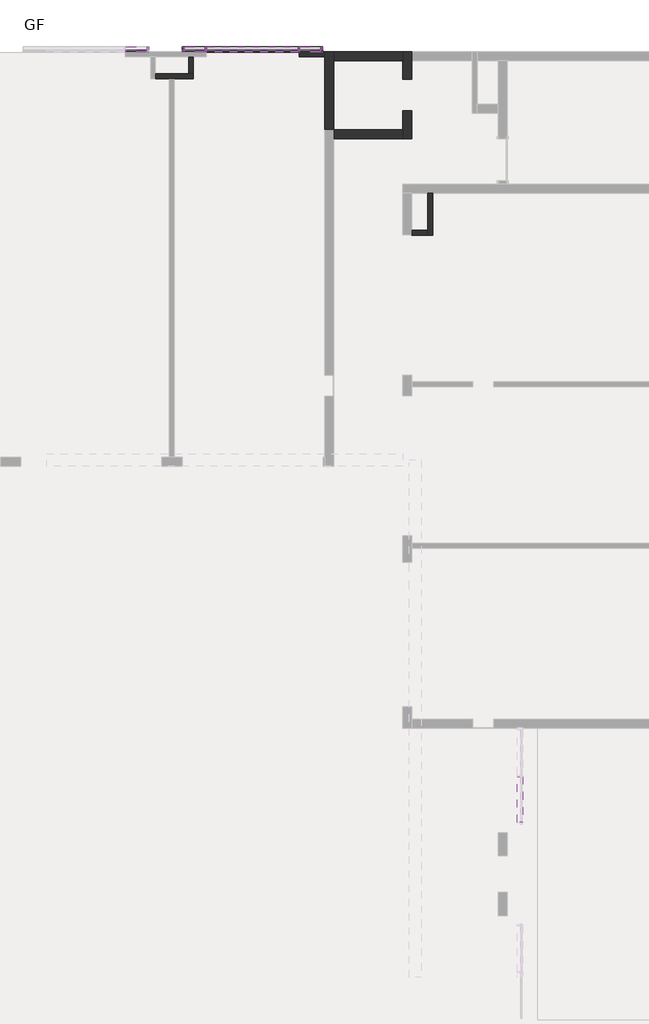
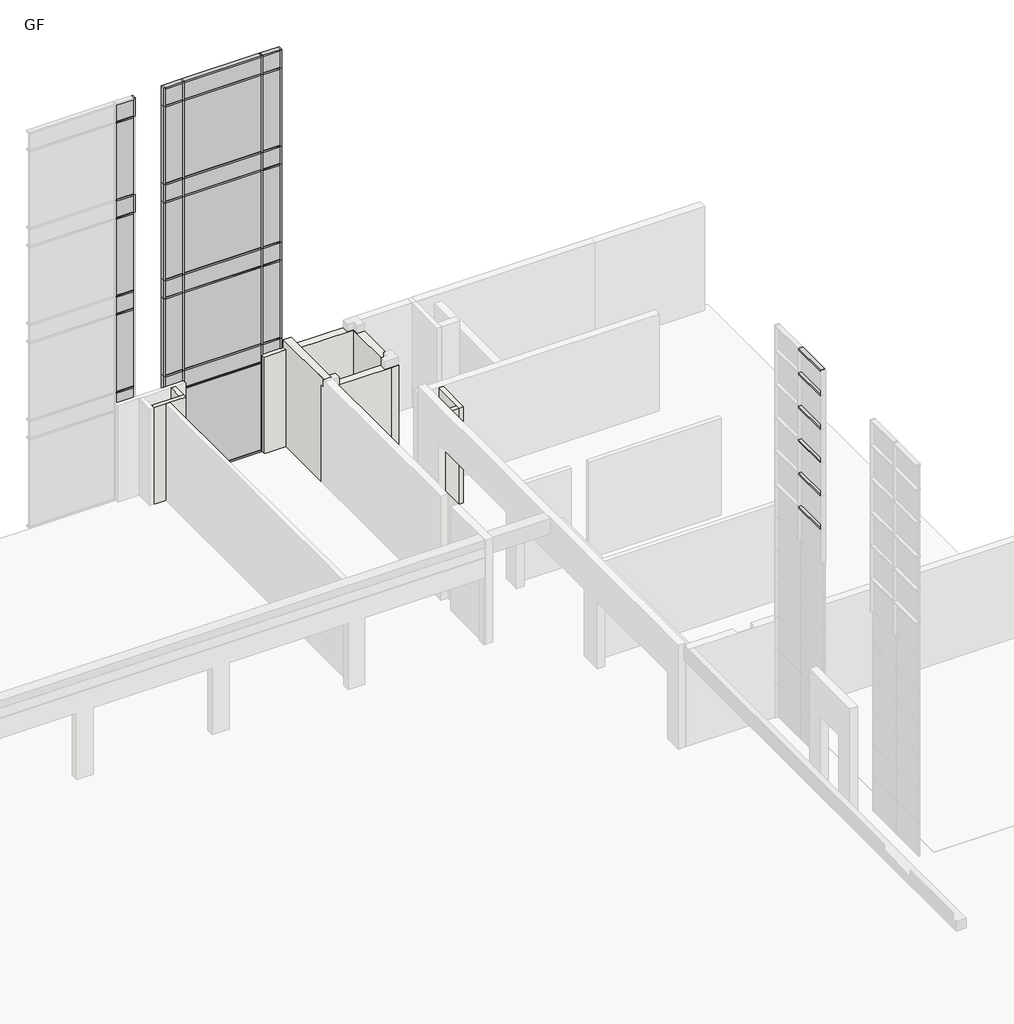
# One storey, part 22 of 23: 74 members, 32 plates, 9 walls.
"""IFC4 building model written with IfcOpenShell, lengths in millimetres."""

from ifc_helpers import new_model, si_unit, frame, origin, place, context, project, spatial, polyline, outline, extrude, faceted_brep, transform, mapped, element, save
from components import rectangular_mullion_50_x_150mm_64d38db8, rectangular_mullion_50_x_150mm_68b3818a, rectangular_mullion_50_x_150mm_350c86c2, rectangular_mullion_50_x_150mm_f245f1eb, rectangular_mullion_50_x_150mm_5fdcfccd, rectangular_mullion_50_x_150mm_d11e3bb4, rectangular_mullion_50_x_150mm_7d543e93, rectangular_mullion_50_x_150mm_9e0f1e24, rectangular_mullion_50_x_150mm_a95743fc, rectangular_mullion_50_x_150mm_dbb82e9e, rectangular_mullion_50_x_150mm_32aaa733, rectangular_mullion_50_x_150mm_9b8962c0, rectangular_mullion_50_x_150mm_f822ab76, rectangular_mullion_50_x_150mm_c30a9d19, system_panel_glazed_f9f902e6, system_panel_glazed_bf1ddb54, system_panel_glazed_6ff5b55b, system_panel_glazed_2a2db0e8, system_panel_glazed_93ed122c, system_panel_glazed_c1421171

model = new_model("IFC4")

# Units and contexts
model_context = context("Model", 3, world=origin())
ifc_project = project(units=[si_unit("LENGTHUNIT", "METRE", prefix="MILLI")], contexts=[model_context])

# Site, building, storey
site = spatial("IfcSite", under=ifc_project)
building = spatial("IfcBuilding", under=site)
storey = spatial("IfcBuildingStorey", under=building, Name="GF", Elevation=900.0)

# Members
placement = place(None, origin())
rectangular_mullion_50_x_150mm_shape = rectangular_mullion_50_x_150mm_64d38db8(model_context)
element("IfcMember", 1, ObjectType="Rectangular Mullion : 50 x 150mm", at=placement, inside=storey, context=model_context, shape_type="MappedRepresentation", body=[
    mapped(rectangular_mullion_50_x_150mm_shape, transform((28437.4134101, 21322.3851347, 15125.0), x_axis=(0.0, 0.0, 1.0), y_axis=(0.0, -1.0, 0.0), z_axis=(1.0, 0.0, 0.0))),
])
element("IfcMember", 2, ObjectType="Rectangular Mullion : 50 x 150mm", at=placement, inside=storey, context=model_context, shape_type="MappedRepresentation", body=[
    mapped(rectangular_mullion_50_x_150mm_shape, transform((25122.4134101, 21322.3851347, 15125.0), x_axis=(0.0, 0.0, 1.0), y_axis=(0.0, -1.0, 0.0), z_axis=(1.0, 0.0, 0.0))),
])
element("IfcMember", 3, ObjectType="Rectangular Mullion : 50 x 150mm", at=placement, inside=storey, context=model_context, shape_type="MappedRepresentation", body=[
    mapped(rectangular_mullion_50_x_150mm_shape, transform((24522.4134101, 21322.3851347, 900.0), x_axis=(0.0, 0.0, -1.0), y_axis=(0.0, -1.0, 0.0), z_axis=(-1.0, 0.0, 0.0))),
])
element("IfcMember", 4, ObjectType="Rectangular Mullion : 50 x 150mm", at=placement, inside=storey, context=model_context, shape_type="MappedRepresentation", body=[
    mapped(rectangular_mullion_50_x_150mm_shape, transform((27837.4134101, 21322.3851347, 900.0), x_axis=(0.0, 0.0, -1.0), y_axis=(0.0, -1.0, 0.0), z_axis=(-1.0, 0.0, 0.0))),
])
rectangular_mullion_50_x_150mm_2_shape = rectangular_mullion_50_x_150mm_68b3818a(model_context)
element("IfcMember", 5, ObjectType="Rectangular Mullion : 50 x 150mm", at=placement, inside=storey, context=model_context, shape_type="MappedRepresentation", body=[
    mapped(rectangular_mullion_50_x_150mm_2_shape, transform((25122.4134101, 21322.3851347, 4750.0), x_axis=(0.0, 0.0, 1.0), y_axis=(0.0, -1.0, 0.0), z_axis=(1.0, 0.0, 0.0))),
])
element("IfcMember", 6, ObjectType="Rectangular Mullion : 50 x 150mm", at=placement, inside=storey, context=model_context, shape_type="MappedRepresentation", body=[
    mapped(rectangular_mullion_50_x_150mm_2_shape, transform((28437.4134101, 21322.3851347, 4750.0), x_axis=(0.0, 0.0, 1.0), y_axis=(0.0, -1.0, 0.0), z_axis=(1.0, 0.0, 0.0))),
])
element("IfcMember", 7, ObjectType="Rectangular Mullion : 50 x 150mm", at=placement, inside=storey, context=model_context, shape_type="MappedRepresentation", body=[
    mapped(rectangular_mullion_50_x_150mm_2_shape, transform((25122.4134101, 21322.3851347, 4100.0), x_axis=(0.0, 0.0, 1.0), y_axis=(0.0, -1.0, 0.0), z_axis=(1.0, 0.0, 0.0))),
])
element("IfcMember", 8, ObjectType="Rectangular Mullion : 50 x 150mm", at=placement, inside=storey, context=model_context, shape_type="MappedRepresentation", body=[
    mapped(rectangular_mullion_50_x_150mm_2_shape, transform((28437.4134101, 21322.3851347, 4100.0), x_axis=(0.0, 0.0, 1.0), y_axis=(0.0, -1.0, 0.0), z_axis=(1.0, 0.0, 0.0))),
])
element("IfcMember", 9, ObjectType="Rectangular Mullion : 50 x 150mm", at=placement, inside=storey, context=model_context, shape_type="MappedRepresentation", body=[
    mapped(rectangular_mullion_50_x_150mm_2_shape, transform((25122.4134101, 21322.3851347, 8200.0), x_axis=(0.0, 0.0, 1.0), y_axis=(0.0, -1.0, 0.0), z_axis=(1.0, 0.0, 0.0))),
])
element("IfcMember", 10, ObjectType="Rectangular Mullion : 50 x 150mm", at=placement, inside=storey, context=model_context, shape_type="MappedRepresentation", body=[
    mapped(rectangular_mullion_50_x_150mm_2_shape, transform((28437.4134101, 21322.3851347, 8200.0), x_axis=(0.0, 0.0, 1.0), y_axis=(0.0, -1.0, 0.0), z_axis=(1.0, 0.0, 0.0))),
])
element("IfcMember", 11, ObjectType="Rectangular Mullion : 50 x 150mm", at=placement, inside=storey, context=model_context, shape_type="MappedRepresentation", body=[
    mapped(rectangular_mullion_50_x_150mm_2_shape, transform((25122.4134101, 21322.3851347, 11650.0), x_axis=(0.0, 0.0, 1.0), y_axis=(0.0, -1.0, 0.0), z_axis=(1.0, 0.0, 0.0))),
])
element("IfcMember", 12, ObjectType="Rectangular Mullion : 50 x 150mm", at=placement, inside=storey, context=model_context, shape_type="MappedRepresentation", body=[
    mapped(rectangular_mullion_50_x_150mm_2_shape, transform((28437.4134101, 21322.3851347, 11650.0), x_axis=(0.0, 0.0, 1.0), y_axis=(0.0, -1.0, 0.0), z_axis=(1.0, 0.0, 0.0))),
])
element("IfcMember", 13, ObjectType="Rectangular Mullion : 50 x 150mm", at=placement, inside=storey, context=model_context, shape_type="MappedRepresentation", body=[
    mapped(rectangular_mullion_50_x_150mm_2_shape, transform((25122.4134101, 21322.3851347, 7550.0), x_axis=(0.0, 0.0, 1.0), y_axis=(0.0, -1.0, 0.0), z_axis=(1.0, 0.0, 0.0))),
])
element("IfcMember", 14, ObjectType="Rectangular Mullion : 50 x 150mm", at=placement, inside=storey, context=model_context, shape_type="MappedRepresentation", body=[
    mapped(rectangular_mullion_50_x_150mm_2_shape, transform((28437.4134101, 21322.3851347, 7550.0), x_axis=(0.0, 0.0, 1.0), y_axis=(0.0, -1.0, 0.0), z_axis=(1.0, 0.0, 0.0))),
])
element("IfcMember", 15, ObjectType="Rectangular Mullion : 50 x 150mm", at=placement, inside=storey, context=model_context, shape_type="MappedRepresentation", body=[
    mapped(rectangular_mullion_50_x_150mm_2_shape, transform((25122.4134101, 21322.3851347, 11000.0), x_axis=(0.0, 0.0, 1.0), y_axis=(0.0, -1.0, 0.0), z_axis=(1.0, 0.0, 0.0))),
])
element("IfcMember", 16, ObjectType="Rectangular Mullion : 50 x 150mm", at=placement, inside=storey, context=model_context, shape_type="MappedRepresentation", body=[
    mapped(rectangular_mullion_50_x_150mm_2_shape, transform((28437.4134101, 21322.3851347, 11000.0), x_axis=(0.0, 0.0, 1.0), y_axis=(0.0, -1.0, 0.0), z_axis=(1.0, 0.0, 0.0))),
])
element("IfcMember", 17, ObjectType="Rectangular Mullion : 50 x 150mm", at=placement, inside=storey, context=model_context, shape_type="MappedRepresentation", body=[
    mapped(rectangular_mullion_50_x_150mm_2_shape, transform((25122.4134101, 21322.3851347, 14450.0), x_axis=(0.0, 0.0, 1.0), y_axis=(0.0, -1.0, 0.0), z_axis=(1.0, 0.0, 0.0))),
])
element("IfcMember", 18, ObjectType="Rectangular Mullion : 50 x 150mm", at=placement, inside=storey, context=model_context, shape_type="MappedRepresentation", body=[
    mapped(rectangular_mullion_50_x_150mm_2_shape, transform((28437.4134101, 21322.3851347, 14450.0), x_axis=(0.0, 0.0, 1.0), y_axis=(0.0, -1.0, 0.0), z_axis=(1.0, 0.0, 0.0))),
])
element("IfcMember", 19, ObjectType="Rectangular Mullion : 50 x 150mm", at=placement, inside=storey, context=model_context, shape_type="MappedRepresentation", body=[
    mapped(rectangular_mullion_50_x_150mm_2_shape, transform((23452.4134101, 21322.3851347, 4100.0), x_axis=(0.0, 0.0, 1.0), y_axis=(0.0, -1.0, 0.0), z_axis=(1.0, 0.0, 0.0))),
])
element("IfcMember", 20, ObjectType="Rectangular Mullion : 50 x 150mm", at=placement, inside=storey, context=model_context, shape_type="MappedRepresentation", body=[
    mapped(rectangular_mullion_50_x_150mm_2_shape, transform((23452.4134101, 21322.3851347, 4750.0), x_axis=(0.0, 0.0, 1.0), y_axis=(0.0, -1.0, 0.0), z_axis=(1.0, 0.0, 0.0))),
])
element("IfcMember", 21, ObjectType="Rectangular Mullion : 50 x 150mm", at=placement, inside=storey, context=model_context, shape_type="MappedRepresentation", body=[
    mapped(rectangular_mullion_50_x_150mm_2_shape, transform((23452.4134101, 21322.3851347, 7550.0), x_axis=(0.0, 0.0, 1.0), y_axis=(0.0, -1.0, 0.0), z_axis=(1.0, 0.0, 0.0))),
])
element("IfcMember", 22, ObjectType="Rectangular Mullion : 50 x 150mm", at=placement, inside=storey, context=model_context, shape_type="MappedRepresentation", body=[
    mapped(rectangular_mullion_50_x_150mm_2_shape, transform((23452.4134101, 21322.3851347, 8200.0), x_axis=(0.0, 0.0, 1.0), y_axis=(0.0, -1.0, 0.0), z_axis=(1.0, 0.0, 0.0))),
])
element("IfcMember", 23, ObjectType="Rectangular Mullion : 50 x 150mm", at=placement, inside=storey, context=model_context, shape_type="MappedRepresentation", body=[
    mapped(rectangular_mullion_50_x_150mm_2_shape, transform((23452.4134101, 21322.3851347, 11000.0), x_axis=(0.0, 0.0, 1.0), y_axis=(0.0, -1.0, 0.0), z_axis=(1.0, 0.0, 0.0))),
])
element("IfcMember", 24, ObjectType="Rectangular Mullion : 50 x 150mm", at=placement, inside=storey, context=model_context, shape_type="MappedRepresentation", body=[
    mapped(rectangular_mullion_50_x_150mm_2_shape, transform((23452.4134101, 21322.3851347, 11650.0), x_axis=(0.0, 0.0, 1.0), y_axis=(0.0, -1.0, 0.0), z_axis=(1.0, 0.0, 0.0))),
])
element("IfcMember", 25, ObjectType="Rectangular Mullion : 50 x 150mm", at=placement, inside=storey, context=model_context, shape_type="MappedRepresentation", body=[
    mapped(rectangular_mullion_50_x_150mm_2_shape, transform((23452.4134101, 21322.3851347, 14450.0), x_axis=(0.0, 0.0, 1.0), y_axis=(0.0, -1.0, 0.0), z_axis=(1.0, 0.0, 0.0))),
])
rectangular_mullion_50_x_150mm_3_shape = rectangular_mullion_50_x_150mm_350c86c2(model_context)
element("IfcMember", 26, ObjectType="Rectangular Mullion : 50 x 150mm", at=placement, inside=storey, context=model_context, shape_type="MappedRepresentation", body=[
    mapped(rectangular_mullion_50_x_150mm_3_shape, transform((25172.4134101, 21322.3851347, 900.0), x_axis=(0.0, 0.0, -1.0), y_axis=(0.0, -1.0, 0.0), z_axis=(-1.0, 0.0, 0.0))),
])
rectangular_mullion_50_x_150mm_4_shape = rectangular_mullion_50_x_150mm_f245f1eb(model_context)
element("IfcMember", 27, ObjectType="Rectangular Mullion : 50 x 150mm", at=placement, inside=storey, context=model_context, shape_type="MappedRepresentation", body=[
    mapped(rectangular_mullion_50_x_150mm_4_shape, transform((25147.4134101, 21322.3851347, 900.0), x_axis=(1.0, 0.0, 0.0), y_axis=(0.0, -1.0, 0.0), z_axis=(0.0, 0.0, -1.0))),
])
element("IfcMember", 28, ObjectType="Rectangular Mullion : 50 x 150mm", at=placement, inside=storey, context=model_context, shape_type="MappedRepresentation", body=[
    mapped(rectangular_mullion_50_x_150mm_4_shape, transform((27812.4134101, 21322.3851347, 900.0), x_axis=(1.0, 0.0, 0.0), y_axis=(0.0, -1.0, 0.0), z_axis=(0.0, 0.0, -1.0))),
])
element("IfcMember", 29, ObjectType="Rectangular Mullion : 50 x 150mm", at=placement, inside=storey, context=model_context, shape_type="MappedRepresentation", body=[
    mapped(rectangular_mullion_50_x_150mm_3_shape, transform((27787.4134101, 21322.3851347, 15125.0), x_axis=(0.0, 0.0, 1.0), y_axis=(0.0, -1.0, 0.0), z_axis=(1.0, 0.0, 0.0))),
])
rectangular_mullion_50_x_150mm_5_shape = rectangular_mullion_50_x_150mm_5fdcfccd(model_context)
element("IfcMember", 30, ObjectType="Rectangular Mullion : 50 x 150mm", at=placement, inside=storey, context=model_context, shape_type="MappedRepresentation", body=[
    mapped(rectangular_mullion_50_x_150mm_5_shape, transform((27787.4134101, 21322.3851347, 4750.0), x_axis=(0.0, 0.0, 1.0), y_axis=(0.0, -1.0, 0.0), z_axis=(1.0, 0.0, 0.0))),
])
element("IfcMember", 31, ObjectType="Rectangular Mullion : 50 x 150mm", at=placement, inside=storey, context=model_context, shape_type="MappedRepresentation", body=[
    mapped(rectangular_mullion_50_x_150mm_5_shape, transform((27787.4134101, 21322.3851347, 4100.0), x_axis=(0.0, 0.0, 1.0), y_axis=(0.0, -1.0, 0.0), z_axis=(1.0, 0.0, 0.0))),
])
element("IfcMember", 32, ObjectType="Rectangular Mullion : 50 x 150mm", at=placement, inside=storey, context=model_context, shape_type="MappedRepresentation", body=[
    mapped(rectangular_mullion_50_x_150mm_5_shape, transform((27787.4134101, 21322.3851347, 8200.0), x_axis=(0.0, 0.0, 1.0), y_axis=(0.0, -1.0, 0.0), z_axis=(1.0, 0.0, 0.0))),
])
element("IfcMember", 33, ObjectType="Rectangular Mullion : 50 x 150mm", at=placement, inside=storey, context=model_context, shape_type="MappedRepresentation", body=[
    mapped(rectangular_mullion_50_x_150mm_5_shape, transform((27787.4134101, 21322.3851347, 11650.0), x_axis=(0.0, 0.0, 1.0), y_axis=(0.0, -1.0, 0.0), z_axis=(1.0, 0.0, 0.0))),
])
element("IfcMember", 34, ObjectType="Rectangular Mullion : 50 x 150mm", at=placement, inside=storey, context=model_context, shape_type="MappedRepresentation", body=[
    mapped(rectangular_mullion_50_x_150mm_5_shape, transform((27787.4134101, 21322.3851347, 7550.0), x_axis=(0.0, 0.0, 1.0), y_axis=(0.0, -1.0, 0.0), z_axis=(1.0, 0.0, 0.0))),
])
element("IfcMember", 35, ObjectType="Rectangular Mullion : 50 x 150mm", at=placement, inside=storey, context=model_context, shape_type="MappedRepresentation", body=[
    mapped(rectangular_mullion_50_x_150mm_5_shape, transform((27787.4134101, 21322.3851347, 11000.0), x_axis=(0.0, 0.0, 1.0), y_axis=(0.0, -1.0, 0.0), z_axis=(1.0, 0.0, 0.0))),
])
element("IfcMember", 36, ObjectType="Rectangular Mullion : 50 x 150mm", at=placement, inside=storey, context=model_context, shape_type="MappedRepresentation", body=[
    mapped(rectangular_mullion_50_x_150mm_5_shape, transform((27787.4134101, 21322.3851347, 14450.0), x_axis=(0.0, 0.0, 1.0), y_axis=(0.0, -1.0, 0.0), z_axis=(1.0, 0.0, 0.0))),
])
rectangular_mullion_50_x_150mm_6_shape = rectangular_mullion_50_x_150mm_d11e3bb4(model_context)
element("IfcMember", 37, ObjectType="Rectangular Mullion : 50 x 150mm", at=placement, inside=storey, context=model_context, shape_type="MappedRepresentation", body=[
    mapped(rectangular_mullion_50_x_150mm_6_shape, transform((25147.4134101, 21322.3851347, 4750.0), x_axis=(1.0, 0.0, 0.0), y_axis=(0.0, -1.0, 0.0), z_axis=(0.0, 0.0, -1.0))),
])
element("IfcMember", 38, ObjectType="Rectangular Mullion : 50 x 150mm", at=placement, inside=storey, context=model_context, shape_type="MappedRepresentation", body=[
    mapped(rectangular_mullion_50_x_150mm_6_shape, transform((27812.4134101, 21322.3851347, 4750.0), x_axis=(1.0, 0.0, 0.0), y_axis=(0.0, -1.0, 0.0), z_axis=(0.0, 0.0, -1.0))),
])
element("IfcMember", 39, ObjectType="Rectangular Mullion : 50 x 150mm", at=placement, inside=storey, context=model_context, shape_type="MappedRepresentation", body=[
    mapped(rectangular_mullion_50_x_150mm_6_shape, transform((25147.4134101, 21322.3851347, 8200.0), x_axis=(1.0, 0.0, 0.0), y_axis=(0.0, -1.0, 0.0), z_axis=(0.0, 0.0, -1.0))),
])
element("IfcMember", 40, ObjectType="Rectangular Mullion : 50 x 150mm", at=placement, inside=storey, context=model_context, shape_type="MappedRepresentation", body=[
    mapped(rectangular_mullion_50_x_150mm_6_shape, transform((27812.4134101, 21322.3851347, 8200.0), x_axis=(1.0, 0.0, 0.0), y_axis=(0.0, -1.0, 0.0), z_axis=(0.0, 0.0, -1.0))),
])
element("IfcMember", 41, ObjectType="Rectangular Mullion : 50 x 150mm", at=placement, inside=storey, context=model_context, shape_type="MappedRepresentation", body=[
    mapped(rectangular_mullion_50_x_150mm_6_shape, transform((25147.4134101, 21322.3851347, 11650.0), x_axis=(1.0, 0.0, 0.0), y_axis=(0.0, -1.0, 0.0), z_axis=(0.0, 0.0, -1.0))),
])
element("IfcMember", 42, ObjectType="Rectangular Mullion : 50 x 150mm", at=placement, inside=storey, context=model_context, shape_type="MappedRepresentation", body=[
    mapped(rectangular_mullion_50_x_150mm_6_shape, transform((27812.4134101, 21322.3851347, 11650.0), x_axis=(1.0, 0.0, 0.0), y_axis=(0.0, -1.0, 0.0), z_axis=(0.0, 0.0, -1.0))),
])
rectangular_mullion_50_x_150mm_7_shape = rectangular_mullion_50_x_150mm_7d543e93(model_context)
element("IfcMember", 43, ObjectType="Rectangular Mullion : 50 x 150mm", at=placement, inside=storey, context=model_context, shape_type="MappedRepresentation", body=[
    mapped(rectangular_mullion_50_x_150mm_7_shape, transform((25147.4134101, 21322.3851347, 4100.0), x_axis=(1.0, 0.0, 0.0), y_axis=(0.0, -1.0, 0.0), z_axis=(0.0, 0.0, -1.0))),
])
element("IfcMember", 44, ObjectType="Rectangular Mullion : 50 x 150mm", at=placement, inside=storey, context=model_context, shape_type="MappedRepresentation", body=[
    mapped(rectangular_mullion_50_x_150mm_7_shape, transform((27812.4134101, 21322.3851347, 4100.0), x_axis=(1.0, 0.0, 0.0), y_axis=(0.0, -1.0, 0.0), z_axis=(0.0, 0.0, -1.0))),
])
element("IfcMember", 45, ObjectType="Rectangular Mullion : 50 x 150mm", at=placement, inside=storey, context=model_context, shape_type="MappedRepresentation", body=[
    mapped(rectangular_mullion_50_x_150mm_7_shape, transform((25147.4134101, 21322.3851347, 7550.0), x_axis=(1.0, 0.0, 0.0), y_axis=(0.0, -1.0, 0.0), z_axis=(0.0, 0.0, -1.0))),
])
element("IfcMember", 46, ObjectType="Rectangular Mullion : 50 x 150mm", at=placement, inside=storey, context=model_context, shape_type="MappedRepresentation", body=[
    mapped(rectangular_mullion_50_x_150mm_7_shape, transform((27812.4134101, 21322.3851347, 7550.0), x_axis=(1.0, 0.0, 0.0), y_axis=(0.0, -1.0, 0.0), z_axis=(0.0, 0.0, -1.0))),
])
element("IfcMember", 47, ObjectType="Rectangular Mullion : 50 x 150mm", at=placement, inside=storey, context=model_context, shape_type="MappedRepresentation", body=[
    mapped(rectangular_mullion_50_x_150mm_7_shape, transform((25147.4134101, 21322.3851347, 11000.0), x_axis=(1.0, 0.0, 0.0), y_axis=(0.0, -1.0, 0.0), z_axis=(0.0, 0.0, -1.0))),
])
element("IfcMember", 48, ObjectType="Rectangular Mullion : 50 x 150mm", at=placement, inside=storey, context=model_context, shape_type="MappedRepresentation", body=[
    mapped(rectangular_mullion_50_x_150mm_7_shape, transform((27812.4134101, 21322.3851347, 11000.0), x_axis=(1.0, 0.0, 0.0), y_axis=(0.0, -1.0, 0.0), z_axis=(0.0, 0.0, -1.0))),
])
rectangular_mullion_50_x_150mm_8_shape = rectangular_mullion_50_x_150mm_9e0f1e24(model_context)
element("IfcMember", 49, ObjectType="Rectangular Mullion : 50 x 150mm", at=placement, inside=storey, context=model_context, shape_type="MappedRepresentation", body=[
    mapped(rectangular_mullion_50_x_150mm_8_shape, transform((25147.4134101, 21322.3851347, 14450.0), x_axis=(1.0, 0.0, 0.0), y_axis=(0.0, -1.0, 0.0), z_axis=(0.0, 0.0, -1.0))),
])
element("IfcMember", 50, ObjectType="Rectangular Mullion : 50 x 150mm", at=placement, inside=storey, context=model_context, shape_type="MappedRepresentation", body=[
    mapped(rectangular_mullion_50_x_150mm_8_shape, transform((27812.4134101, 21322.3851347, 14450.0), x_axis=(1.0, 0.0, 0.0), y_axis=(0.0, -1.0, 0.0), z_axis=(0.0, 0.0, -1.0))),
])
rectangular_mullion_50_x_150mm_9_shape = rectangular_mullion_50_x_150mm_a95743fc(model_context)
element("IfcMember", 51, ObjectType="Rectangular Mullion : 50 x 150mm", at=placement, inside=storey, context=model_context, shape_type="MappedRepresentation", body=[
    mapped(rectangular_mullion_50_x_150mm_9_shape, transform((28487.4134101, 21322.3851347, 900.0), x_axis=(1.0, 0.0, 0.0), y_axis=(0.0, -1.0, 0.0), z_axis=(0.0, 0.0, -1.0))),
])
rectangular_mullion_50_x_150mm_10_shape = rectangular_mullion_50_x_150mm_dbb82e9e(model_context)
element("IfcMember", 52, ObjectType="Rectangular Mullion : 50 x 150mm", at=placement, inside=storey, context=model_context, shape_type="MappedRepresentation", body=[
    mapped(rectangular_mullion_50_x_150mm_10_shape, transform((24472.4134101, 21322.3851347, 15125.0), x_axis=(-1.0, 0.0, 0.0), y_axis=(0.0, -1.0, 0.0), z_axis=(0.0, 0.0, 1.0))),
])
rectangular_mullion_50_x_150mm_11_shape = rectangular_mullion_50_x_150mm_32aaa733(model_context)
element("IfcMember", 53, ObjectType="Rectangular Mullion : 50 x 150mm", at=placement, inside=storey, context=model_context, shape_type="MappedRepresentation", body=[
    mapped(rectangular_mullion_50_x_150mm_11_shape, transform((28487.4134101, 21322.3851347, 4750.0), x_axis=(1.0, 0.0, 0.0), y_axis=(0.0, -1.0, 0.0), z_axis=(0.0, 0.0, -1.0))),
])
element("IfcMember", 54, ObjectType="Rectangular Mullion : 50 x 150mm", at=placement, inside=storey, context=model_context, shape_type="MappedRepresentation", body=[
    mapped(rectangular_mullion_50_x_150mm_11_shape, transform((28487.4134101, 21322.3851347, 8200.0), x_axis=(1.0, 0.0, 0.0), y_axis=(0.0, -1.0, 0.0), z_axis=(0.0, 0.0, -1.0))),
])
element("IfcMember", 55, ObjectType="Rectangular Mullion : 50 x 150mm", at=placement, inside=storey, context=model_context, shape_type="MappedRepresentation", body=[
    mapped(rectangular_mullion_50_x_150mm_11_shape, transform((28487.4134101, 21322.3851347, 11650.0), x_axis=(1.0, 0.0, 0.0), y_axis=(0.0, -1.0, 0.0), z_axis=(0.0, 0.0, -1.0))),
])
rectangular_mullion_50_x_150mm_12_shape = rectangular_mullion_50_x_150mm_9b8962c0(model_context)
element("IfcMember", 56, ObjectType="Rectangular Mullion : 50 x 150mm", at=placement, inside=storey, context=model_context, shape_type="MappedRepresentation", body=[
    mapped(rectangular_mullion_50_x_150mm_12_shape, transform((24472.4134101, 21322.3851347, 4750.0), x_axis=(-1.0, 0.0, 0.0), y_axis=(0.0, -1.0, 0.0), z_axis=(0.0, 0.0, 1.0))),
])
element("IfcMember", 57, ObjectType="Rectangular Mullion : 50 x 150mm", at=placement, inside=storey, context=model_context, shape_type="MappedRepresentation", body=[
    mapped(rectangular_mullion_50_x_150mm_12_shape, transform((24472.4134101, 21322.3851347, 8200.0), x_axis=(-1.0, 0.0, 0.0), y_axis=(0.0, -1.0, 0.0), z_axis=(0.0, 0.0, 1.0))),
])
element("IfcMember", 58, ObjectType="Rectangular Mullion : 50 x 150mm", at=placement, inside=storey, context=model_context, shape_type="MappedRepresentation", body=[
    mapped(rectangular_mullion_50_x_150mm_12_shape, transform((24472.4134101, 21322.3851347, 11650.0), x_axis=(-1.0, 0.0, 0.0), y_axis=(0.0, -1.0, 0.0), z_axis=(0.0, 0.0, 1.0))),
])
element("IfcMember", 59, ObjectType="Rectangular Mullion : 50 x 150mm", at=placement, inside=storey, context=model_context, shape_type="MappedRepresentation", body=[
    mapped(rectangular_mullion_50_x_150mm_12_shape, transform((28487.4134101, 21322.3851347, 4100.0), x_axis=(1.0, 0.0, 0.0), y_axis=(0.0, -1.0, 0.0), z_axis=(0.0, 0.0, -1.0))),
])
element("IfcMember", 60, ObjectType="Rectangular Mullion : 50 x 150mm", at=placement, inside=storey, context=model_context, shape_type="MappedRepresentation", body=[
    mapped(rectangular_mullion_50_x_150mm_12_shape, transform((28487.4134101, 21322.3851347, 7550.0), x_axis=(1.0, 0.0, 0.0), y_axis=(0.0, -1.0, 0.0), z_axis=(0.0, 0.0, -1.0))),
])
element("IfcMember", 61, ObjectType="Rectangular Mullion : 50 x 150mm", at=placement, inside=storey, context=model_context, shape_type="MappedRepresentation", body=[
    mapped(rectangular_mullion_50_x_150mm_12_shape, transform((28487.4134101, 21322.3851347, 11000.0), x_axis=(1.0, 0.0, 0.0), y_axis=(0.0, -1.0, 0.0), z_axis=(0.0, 0.0, -1.0))),
])
element("IfcMember", 62, ObjectType="Rectangular Mullion : 50 x 150mm", at=placement, inside=storey, context=model_context, shape_type="MappedRepresentation", body=[
    mapped(rectangular_mullion_50_x_150mm_12_shape, transform((23502.4134101, 21322.3851347, 11000.0), x_axis=(1.0, 0.0, 0.0), y_axis=(0.0, -1.0, 0.0), z_axis=(0.0, 0.0, -1.0))),
])
element("IfcMember", 63, ObjectType="Rectangular Mullion : 50 x 150mm", at=placement, inside=storey, context=model_context, shape_type="MappedRepresentation", body=[
    mapped(rectangular_mullion_50_x_150mm_9_shape, transform((24472.4134101, 21322.3851347, 4100.0), x_axis=(-1.0, 0.0, 0.0), y_axis=(0.0, -1.0, 0.0), z_axis=(0.0, 0.0, 1.0))),
])
element("IfcMember", 64, ObjectType="Rectangular Mullion : 50 x 150mm", at=placement, inside=storey, context=model_context, shape_type="MappedRepresentation", body=[
    mapped(rectangular_mullion_50_x_150mm_11_shape, transform((24472.4134101, 21322.3851347, 7550.0), x_axis=(-1.0, 0.0, 0.0), y_axis=(0.0, -1.0, 0.0), z_axis=(0.0, 0.0, 1.0))),
])
element("IfcMember", 65, ObjectType="Rectangular Mullion : 50 x 150mm", at=placement, inside=storey, context=model_context, shape_type="MappedRepresentation", body=[
    mapped(rectangular_mullion_50_x_150mm_11_shape, transform((24472.4134101, 21322.3851347, 11000.0), x_axis=(-1.0, 0.0, 0.0), y_axis=(0.0, -1.0, 0.0), z_axis=(0.0, 0.0, 1.0))),
])
element("IfcMember", 66, ObjectType="Rectangular Mullion : 50 x 150mm", at=placement, inside=storey, context=model_context, shape_type="MappedRepresentation", body=[
    mapped(rectangular_mullion_50_x_150mm_11_shape, transform((24472.4134101, 21322.3851347, 14450.0), x_axis=(-1.0, 0.0, 0.0), y_axis=(0.0, -1.0, 0.0), z_axis=(0.0, 0.0, 1.0))),
])
element("IfcMember", 67, ObjectType="Rectangular Mullion : 50 x 150mm", at=placement, inside=storey, context=model_context, shape_type="MappedRepresentation", body=[
    mapped(rectangular_mullion_50_x_150mm_10_shape, transform((28487.4134101, 21322.3851347, 14450.0), x_axis=(1.0, 0.0, 0.0), y_axis=(0.0, -1.0, 0.0), z_axis=(0.0, 0.0, -1.0))),
])
element("IfcMember", 68, ObjectType="Rectangular Mullion : 50 x 150mm", at=placement, inside=storey, context=model_context, shape_type="MappedRepresentation", body=[
    mapped(rectangular_mullion_50_x_150mm_10_shape, transform((23502.4134101, 21322.3851347, 14450.0), x_axis=(1.0, 0.0, 0.0), y_axis=(0.0, -1.0, 0.0), z_axis=(0.0, 0.0, -1.0))),
])
rectangular_mullion_50_x_150mm_13_shape = rectangular_mullion_50_x_150mm_f822ab76(model_context)
element("IfcMember", 69, ObjectType="Rectangular Mullion : 50 x 150mm", at=placement, inside=storey, context=model_context, shape_type="MappedRepresentation", body=[
    mapped(rectangular_mullion_50_x_150mm_13_shape, transform((34137.4134101, 496.3639251, 9300.0), x_axis=(0.0, 0.0, 1.0), y_axis=(1.0, 0.0, 0.0), z_axis=(0.0, 1.0, 0.0))),
])
element("IfcMember", 70, ObjectType="Rectangular Mullion : 50 x 150mm", at=placement, inside=storey, context=model_context, shape_type="MappedRepresentation", body=[
    mapped(rectangular_mullion_50_x_150mm_13_shape, transform((34137.4134101, 496.3639251, 10500.0), x_axis=(0.0, 0.0, 1.0), y_axis=(1.0, 0.0, 0.0), z_axis=(0.0, 1.0, 0.0))),
])
element("IfcMember", 71, ObjectType="Rectangular Mullion : 50 x 150mm", at=placement, inside=storey, context=model_context, shape_type="MappedRepresentation", body=[
    mapped(rectangular_mullion_50_x_150mm_13_shape, transform((34137.4134101, 496.3639251, 11700.0), x_axis=(0.0, 0.0, 1.0), y_axis=(1.0, 0.0, 0.0), z_axis=(0.0, 1.0, 0.0))),
])
element("IfcMember", 72, ObjectType="Rectangular Mullion : 50 x 150mm", at=placement, inside=storey, context=model_context, shape_type="MappedRepresentation", body=[
    mapped(rectangular_mullion_50_x_150mm_13_shape, transform((34137.4134101, 496.3639251, 12900.0), x_axis=(0.0, 0.0, 1.0), y_axis=(1.0, 0.0, 0.0), z_axis=(0.0, 1.0, 0.0))),
])
element("IfcMember", 73, ObjectType="Rectangular Mullion : 50 x 150mm", at=placement, inside=storey, context=model_context, shape_type="MappedRepresentation", body=[
    mapped(rectangular_mullion_50_x_150mm_13_shape, transform((34137.4134101, 496.3639251, 14100.0), x_axis=(0.0, 0.0, 1.0), y_axis=(1.0, 0.0, 0.0), z_axis=(0.0, 1.0, 0.0))),
])
rectangular_mullion_50_x_150mm_14_shape = rectangular_mullion_50_x_150mm_c30a9d19(model_context)
element("IfcMember", 74, ObjectType="Rectangular Mullion : 50 x 150mm", at=placement, inside=storey, context=model_context, shape_type="MappedRepresentation", body=[
    mapped(rectangular_mullion_50_x_150mm_14_shape, transform((34137.4134101, 496.3639251, 15000.0), x_axis=(0.0, 0.0, 1.0), y_axis=(1.0, 0.0, 0.0), z_axis=(0.0, 1.0, 0.0))),
])

# Plates
system_panel_glazed_shape = system_panel_glazed_f9f902e6(model_context)
element("IfcPlate", 75, ObjectType="System Panel : Glazed", at=placement, inside=storey, context=model_context, shape_type="MappedRepresentation", body=[
    mapped(system_panel_glazed_shape, transform((24822.4134101, 21322.3851347, 950.0), x_axis=(1.0, 0.0, 0.0), y_axis=(0.0, 1.0, 0.0), z_axis=(0.0, 0.0, 1.0))),
])
element("IfcPlate", 76, ObjectType="System Panel : Glazed", at=placement, inside=storey, context=model_context, shape_type="MappedRepresentation", body=[
    mapped(system_panel_glazed_shape, transform((28137.4134101, 21322.3851347, 950.0), x_axis=(1.0, 0.0, 0.0), y_axis=(0.0, 1.0, 0.0), z_axis=(0.0, 0.0, 1.0))),
])
element("IfcPlate", 77, ObjectType="System Panel : Glazed", at=placement, inside=storey, context=model_context, shape_type="MappedRepresentation", body=[
    mapped(system_panel_glazed_shape, transform((23152.4134101, 21322.3851347, 950.0), x_axis=(1.0, 0.0, 0.0), y_axis=(0.0, 1.0, 0.0), z_axis=(0.0, 0.0, 1.0))),
])
system_panel_glazed_2_shape = system_panel_glazed_bf1ddb54(model_context)
element("IfcPlate", 78, ObjectType="System Panel : Glazed", at=placement, inside=storey, context=model_context, shape_type="MappedRepresentation", body=[
    mapped(system_panel_glazed_2_shape, transform((26479.9134101, 21322.3851347, 950.0), x_axis=(1.0, 0.0, 0.0), y_axis=(0.0, 1.0, 0.0), z_axis=(0.0, 0.0, 1.0))),
])
system_panel_glazed_3_shape = system_panel_glazed_6ff5b55b(model_context)
element("IfcPlate", 79, ObjectType="System Panel : Glazed", at=placement, inside=storey, context=model_context, shape_type="MappedRepresentation", body=[
    mapped(system_panel_glazed_3_shape, transform((24822.4134101, 21322.3851347, 4775.0), x_axis=(1.0, 0.0, 0.0), y_axis=(0.0, 1.0, 0.0), z_axis=(0.0, 0.0, 1.0))),
])
element("IfcPlate", 80, ObjectType="System Panel : Glazed", at=placement, inside=storey, context=model_context, shape_type="MappedRepresentation", body=[
    mapped(system_panel_glazed_3_shape, transform((28137.4134101, 21322.3851347, 4775.0), x_axis=(1.0, 0.0, 0.0), y_axis=(0.0, 1.0, 0.0), z_axis=(0.0, 0.0, 1.0))),
])
element("IfcPlate", 81, ObjectType="System Panel : Glazed", at=placement, inside=storey, context=model_context, shape_type="MappedRepresentation", body=[
    mapped(system_panel_glazed_3_shape, transform((24822.4134101, 21322.3851347, 8225.0), x_axis=(1.0, 0.0, 0.0), y_axis=(0.0, 1.0, 0.0), z_axis=(0.0, 0.0, 1.0))),
])
element("IfcPlate", 82, ObjectType="System Panel : Glazed", at=placement, inside=storey, context=model_context, shape_type="MappedRepresentation", body=[
    mapped(system_panel_glazed_3_shape, transform((28137.4134101, 21322.3851347, 8225.0), x_axis=(1.0, 0.0, 0.0), y_axis=(0.0, 1.0, 0.0), z_axis=(0.0, 0.0, 1.0))),
])
element("IfcPlate", 83, ObjectType="System Panel : Glazed", at=placement, inside=storey, context=model_context, shape_type="MappedRepresentation", body=[
    mapped(system_panel_glazed_3_shape, transform((24822.4134101, 21322.3851347, 11675.0), x_axis=(1.0, 0.0, 0.0), y_axis=(0.0, 1.0, 0.0), z_axis=(0.0, 0.0, 1.0))),
])
element("IfcPlate", 84, ObjectType="System Panel : Glazed", at=placement, inside=storey, context=model_context, shape_type="MappedRepresentation", body=[
    mapped(system_panel_glazed_3_shape, transform((28137.4134101, 21322.3851347, 11675.0), x_axis=(1.0, 0.0, 0.0), y_axis=(0.0, 1.0, 0.0), z_axis=(0.0, 0.0, 1.0))),
])
element("IfcPlate", 85, ObjectType="System Panel : Glazed", at=placement, inside=storey, context=model_context, shape_type="MappedRepresentation", body=[
    mapped(system_panel_glazed_3_shape, transform((23152.4134101, 21322.3851347, 4775.0), x_axis=(1.0, 0.0, 0.0), y_axis=(0.0, 1.0, 0.0), z_axis=(0.0, 0.0, 1.0))),
])
element("IfcPlate", 86, ObjectType="System Panel : Glazed", at=placement, inside=storey, context=model_context, shape_type="MappedRepresentation", body=[
    mapped(system_panel_glazed_3_shape, transform((23152.4134101, 21322.3851347, 8225.0), x_axis=(1.0, 0.0, 0.0), y_axis=(0.0, 1.0, 0.0), z_axis=(0.0, 0.0, 1.0))),
])
element("IfcPlate", 87, ObjectType="System Panel : Glazed", at=placement, inside=storey, context=model_context, shape_type="MappedRepresentation", body=[
    mapped(system_panel_glazed_3_shape, transform((23152.4134101, 21322.3851347, 11675.0), x_axis=(1.0, 0.0, 0.0), y_axis=(0.0, 1.0, 0.0), z_axis=(0.0, 0.0, 1.0))),
])
system_panel_glazed_4_shape = system_panel_glazed_2a2db0e8(model_context)
element("IfcPlate", 88, ObjectType="System Panel : Glazed", at=placement, inside=storey, context=model_context, shape_type="MappedRepresentation", body=[
    mapped(system_panel_glazed_4_shape, transform((26479.9134101, 21322.3851347, 4775.0), x_axis=(1.0, 0.0, 0.0), y_axis=(0.0, 1.0, 0.0), z_axis=(0.0, 0.0, 1.0))),
])
element("IfcPlate", 89, ObjectType="System Panel : Glazed", at=placement, inside=storey, context=model_context, shape_type="MappedRepresentation", body=[
    mapped(system_panel_glazed_4_shape, transform((26479.9134101, 21322.3851347, 8225.0), x_axis=(1.0, 0.0, 0.0), y_axis=(0.0, 1.0, 0.0), z_axis=(0.0, 0.0, 1.0))),
])
element("IfcPlate", 90, ObjectType="System Panel : Glazed", at=placement, inside=storey, context=model_context, shape_type="MappedRepresentation", body=[
    mapped(system_panel_glazed_4_shape, transform((26479.9134101, 21322.3851347, 11675.0), x_axis=(1.0, 0.0, 0.0), y_axis=(0.0, 1.0, 0.0), z_axis=(0.0, 0.0, 1.0))),
])
system_panel_glazed_5_shape = system_panel_glazed_93ed122c(model_context)
element("IfcPlate", 91, ObjectType="System Panel : Glazed", at=placement, inside=storey, context=model_context, shape_type="MappedRepresentation", body=[
    mapped(system_panel_glazed_5_shape, transform((24822.4134101, 21322.3851347, 4125.0), x_axis=(1.0, 0.0, 0.0), y_axis=(0.0, 1.0, 0.0), z_axis=(0.0, 0.0, 1.0))),
])
element("IfcPlate", 92, ObjectType="System Panel : Glazed", at=placement, inside=storey, context=model_context, shape_type="MappedRepresentation", body=[
    mapped(system_panel_glazed_5_shape, transform((28137.4134101, 21322.3851347, 4125.0), x_axis=(1.0, 0.0, 0.0), y_axis=(0.0, 1.0, 0.0), z_axis=(0.0, 0.0, 1.0))),
])
element("IfcPlate", 93, ObjectType="System Panel : Glazed", at=placement, inside=storey, context=model_context, shape_type="MappedRepresentation", body=[
    mapped(system_panel_glazed_5_shape, transform((24822.4134101, 21322.3851347, 7575.0), x_axis=(1.0, 0.0, 0.0), y_axis=(0.0, 1.0, 0.0), z_axis=(0.0, 0.0, 1.0))),
])
element("IfcPlate", 94, ObjectType="System Panel : Glazed", at=placement, inside=storey, context=model_context, shape_type="MappedRepresentation", body=[
    mapped(system_panel_glazed_5_shape, transform((28137.4134101, 21322.3851347, 7575.0), x_axis=(1.0, 0.0, 0.0), y_axis=(0.0, 1.0, 0.0), z_axis=(0.0, 0.0, 1.0))),
])
element("IfcPlate", 95, ObjectType="System Panel : Glazed", at=placement, inside=storey, context=model_context, shape_type="MappedRepresentation", body=[
    mapped(system_panel_glazed_5_shape, transform((24822.4134101, 21322.3851347, 11025.0), x_axis=(1.0, 0.0, 0.0), y_axis=(0.0, 1.0, 0.0), z_axis=(0.0, 0.0, 1.0))),
])
element("IfcPlate", 96, ObjectType="System Panel : Glazed", at=placement, inside=storey, context=model_context, shape_type="MappedRepresentation", body=[
    mapped(system_panel_glazed_5_shape, transform((28137.4134101, 21322.3851347, 11025.0), x_axis=(1.0, 0.0, 0.0), y_axis=(0.0, 1.0, 0.0), z_axis=(0.0, 0.0, 1.0))),
])
element("IfcPlate", 97, ObjectType="System Panel : Glazed", at=placement, inside=storey, context=model_context, shape_type="MappedRepresentation", body=[
    mapped(system_panel_glazed_5_shape, transform((24822.4134101, 21322.3851347, 14475.0), x_axis=(1.0, 0.0, 0.0), y_axis=(0.0, 1.0, 0.0), z_axis=(0.0, 0.0, 1.0))),
])
element("IfcPlate", 98, ObjectType="System Panel : Glazed", at=placement, inside=storey, context=model_context, shape_type="MappedRepresentation", body=[
    mapped(system_panel_glazed_5_shape, transform((28137.4134101, 21322.3851347, 14475.0), x_axis=(1.0, 0.0, 0.0), y_axis=(0.0, 1.0, 0.0), z_axis=(0.0, 0.0, 1.0))),
])
element("IfcPlate", 99, ObjectType="System Panel : Glazed", at=placement, inside=storey, context=model_context, shape_type="MappedRepresentation", body=[
    mapped(system_panel_glazed_5_shape, transform((23152.4134101, 21322.3851347, 4125.0), x_axis=(1.0, 0.0, 0.0), y_axis=(0.0, 1.0, 0.0), z_axis=(0.0, 0.0, 1.0))),
])
element("IfcPlate", 100, ObjectType="System Panel : Glazed", at=placement, inside=storey, context=model_context, shape_type="MappedRepresentation", body=[
    mapped(system_panel_glazed_5_shape, transform((23152.4134101, 21322.3851347, 7575.0), x_axis=(1.0, 0.0, 0.0), y_axis=(0.0, 1.0, 0.0), z_axis=(0.0, 0.0, 1.0))),
])
element("IfcPlate", 101, ObjectType="System Panel : Glazed", at=placement, inside=storey, context=model_context, shape_type="MappedRepresentation", body=[
    mapped(system_panel_glazed_5_shape, transform((23152.4134101, 21322.3851347, 11025.0), x_axis=(1.0, 0.0, 0.0), y_axis=(0.0, 1.0, 0.0), z_axis=(0.0, 0.0, 1.0))),
])
element("IfcPlate", 102, ObjectType="System Panel : Glazed", at=placement, inside=storey, context=model_context, shape_type="MappedRepresentation", body=[
    mapped(system_panel_glazed_5_shape, transform((23152.4134101, 21322.3851347, 14475.0), x_axis=(1.0, 0.0, 0.0), y_axis=(0.0, 1.0, 0.0), z_axis=(0.0, 0.0, 1.0))),
])
system_panel_glazed_6_shape = system_panel_glazed_c1421171(model_context)
element("IfcPlate", 103, ObjectType="System Panel : Glazed", at=placement, inside=storey, context=model_context, shape_type="MappedRepresentation", body=[
    mapped(system_panel_glazed_6_shape, transform((26479.9134101, 21322.3851347, 4125.0), x_axis=(1.0, 0.0, 0.0), y_axis=(0.0, 1.0, 0.0), z_axis=(0.0, 0.0, 1.0))),
])
element("IfcPlate", 104, ObjectType="System Panel : Glazed", at=placement, inside=storey, context=model_context, shape_type="MappedRepresentation", body=[
    mapped(system_panel_glazed_6_shape, transform((26479.9134101, 21322.3851347, 7575.0), x_axis=(1.0, 0.0, 0.0), y_axis=(0.0, 1.0, 0.0), z_axis=(0.0, 0.0, 1.0))),
])
element("IfcPlate", 105, ObjectType="System Panel : Glazed", at=placement, inside=storey, context=model_context, shape_type="MappedRepresentation", body=[
    mapped(system_panel_glazed_6_shape, transform((26479.9134101, 21322.3851347, 11025.0), x_axis=(1.0, 0.0, 0.0), y_axis=(0.0, 1.0, 0.0), z_axis=(0.0, 0.0, 1.0))),
])
element("IfcPlate", 106, ObjectType="System Panel : Glazed", at=placement, inside=storey, context=model_context, shape_type="MappedRepresentation", body=[
    mapped(system_panel_glazed_6_shape, transform((26479.9134101, 21322.3851347, 14475.0), x_axis=(1.0, 0.0, 0.0), y_axis=(0.0, 1.0, 0.0), z_axis=(0.0, 0.0, 1.0))),
])

# Walls
element("IfcWall", 107, ObjectType="wall-115", at=placement, inside=storey, context=model_context, shape_type="Brep", body=[
    faceted_brep([(23699.4134101, 20487.3851347, 900.0), (24099.9134101, 20487.3851347, 900.0), (24241.9134101, 20487.3851347, 900.0), (24787.4134101, 20487.3851347, 900.0), (24787.4134101, 20487.3851347, 4375.0), (24241.9134101, 20487.3851347, 4375.0), (24099.9134101, 20487.3851347, 4375.0), (23699.4134101, 20487.3851347, 4375.0), (23699.4134101, 20629.3851347, 900.0), (23699.4134101, 20629.3851347, 4375.0), (24645.4134101, 20629.3851347, 4375.0), (24787.4134101, 20629.3851347, 4375.0), (24787.4134101, 20629.3851347, 900.0), (24645.4134101, 20629.3851347, 900.0)], [[[0, 1, 2, 3, 4, 5, 6, 7]], [[8, 9, 10, 11, 12, 13]], [[3, 2, 1, 0, 8, 13, 12]], [[4, 3, 12, 11]], [[0, 7, 9, 8]], [[7, 6, 5, 4, 11, 10, 9]]]),
])
element("IfcWall", 108, ObjectType="wall-115", at=placement, inside=storey, context=model_context, shape_type="SweptSolid", body=[
    extrude(outline(polyline([(24787.4134101, 21117.3851347), (24787.4134101, 20629.3851347), (24645.4134101, 20629.3851347), (24645.4134101, 21117.3851347), (24787.4134101, 21117.3851347)])), frame((0.0, 0.0, 900.0), z_axis=(0.0, 0.0, 1.0), x_axis=(1.0, 0.0, 0.0)), (0.0, 0.0, 1.0), 3475.0),
])
element("IfcWall", 109, ObjectType="wall-115", at=placement, inside=storey, context=model_context, shape_type="Brep", body=[
    faceted_brep([(31490.4134101, 17207.3851348, 900.0), (31490.4134101, 16149.3851347, 900.0), (31490.4134101, 16007.3851347, 900.0), (31490.4134101, 16007.3851347, 4350.0), (31490.4134101, 16149.3851347, 4350.0), (31490.4134101, 17207.3851348, 4350.0), (31632.4134101, 17207.3851348, 900.0), (31632.4134101, 17207.3851348, 4350.0), (31632.4134101, 16007.3851347, 4350.0), (31632.4134101, 16007.3851347, 900.0)], [[[0, 1, 2, 3, 4, 5]], [[6, 7, 8, 9]], [[2, 1, 0, 6, 9]], [[5, 4, 3, 8, 7]], [[3, 2, 9, 8]], [[0, 5, 7, 6]]]),
])
element("IfcWall", 110, ObjectType="wall-115", at=placement, inside=storey, context=model_context, shape_type="Brep", body=[
    faceted_brep([(31032.4134101, 16007.3851347, 900.0), (31490.4134101, 16007.3851347, 900.0), (31490.4134101, 16007.3851347, 4350.0), (31032.4134101, 16007.3851347, 4350.0), (31032.4134101, 16149.3851347, 900.0), (31032.4134101, 16149.3851347, 4350.0), (31490.4134101, 16149.3851347, 4350.0), (31490.4134101, 16149.3851347, 900.0), (31032.4134101, 16022.3851347, 900.0)], [[[0, 1, 2, 3]], [[4, 5, 6, 7]], [[1, 0, 8, 4, 7]], [[3, 2, 6, 5]], [[2, 1, 7, 6]], [[0, 3, 5, 4, 8]]]),
])
element("IfcWall", 111, ObjectType="wall-115", at=placement, inside=storey, context=model_context, shape_type="SweptSolid", body=[
    extrude(outline(polyline([(28545.4134101, 21117.3851347), (27812.4134101, 21117.3851347), (27812.4134101, 21259.3851347), (28545.4134101, 21259.3851347), (28545.4134101, 21117.3851347)])), frame((0.0, 0.0, 900.0), z_axis=(0.0, 0.0, 1.0), x_axis=(1.0, 0.0, 0.0)), (0.0, 0.0, 1.0), 3475.0),
])
element("IfcWall", 112, ObjectType="wall-230", at=placement, inside=storey, context=model_context, shape_type="Brep", body=[
    faceted_brep([(30775.4134101, 21259.3851347, 900.0), (30775.4134101, 21002.3851347, 900.0), (30775.4134101, 20467.3851347, 900.0), (30775.4134101, 20467.3851347, 3000.0), (30775.4134101, 19567.3851347, 3000.0), (30775.4134101, 19567.3851347, 900.0), (30775.4134101, 19029.3851347, 900.0), (30775.4134101, 18772.3851347, 900.0), (30775.4134101, 18772.3851347, 4375.0), (30775.4134101, 19029.3851347, 4375.0), (30775.4134101, 21002.3851347, 4375.0), (30775.4134101, 21259.3851347, 4375.0), (31032.4134101, 20467.3851347, 3000.0), (31032.4134101, 20467.3851347, 900.0), (31032.4134101, 21005.3851347, 900.0), (31032.4134101, 21259.3851347, 900.0), (31032.4134101, 21259.3851347, 4375.0), (31032.4134101, 18772.3851347, 4375.0), (31032.4134101, 18772.3851347, 900.0), (31032.4134101, 19567.3851347, 900.0), (31032.4134101, 19567.3851347, 3000.0)], [[[0, 1, 2, 3, 4, 5, 6, 7, 8, 9, 10, 11]], [[12, 13, 14, 15, 16, 17, 18, 19, 20]], [[15, 14, 13, 2, 1, 0]], [[19, 18, 7, 6, 5]], [[8, 7, 18, 17]], [[0, 11, 16, 15]], [[11, 10, 9, 8, 17, 16]], [[4, 3, 12, 20]], [[5, 4, 20, 19]], [[3, 2, 13, 12]]]),
])
element("IfcWall", 113, ObjectType="wall-230", at=placement, inside=storey, context=model_context, shape_type="Brep", body=[
    faceted_brep([(30775.4134101, 19029.3851347, 900.0), (28802.4134101, 19029.3851347, 900.0), (28799.4134101, 19029.3851347, 900.0), (28799.4134101, 19029.3851347, 4375.0), (28802.4134101, 19029.3851347, 4375.0), (30775.4134101, 19029.3851347, 4375.0), (30775.4134101, 18772.3851347, 900.0), (30775.4134101, 18772.3851347, 4375.0), (28799.4134101, 18772.3851347, 4375.0), (28799.4134101, 18772.3851347, 900.0), (28799.4134101, 18900.8851347, 4375.0)], [[[0, 1, 2, 3, 4, 5]], [[6, 7, 8, 9]], [[2, 1, 0, 6, 9]], [[0, 5, 7, 6]], [[3, 2, 9, 8, 10]], [[5, 4, 3, 10, 8, 7]]]),
])
element("IfcWall", 114, ObjectType="wall-230", at=placement, inside=storey, context=model_context, shape_type="Brep", body=[
    faceted_brep([(28545.4134101, 21259.3851347, 900.0), (28545.4134101, 21117.3851347, 900.0), (28545.4134101, 19029.3851347, 900.0), (28545.4134101, 19029.3851347, 4375.0), (28545.4134101, 18900.8851347, 4375.0), (28545.4134101, 18900.8851347, 4650.0), (28545.4134101, 21259.3851347, 4650.0), (28545.4134101, 21259.3851347, 4375.0), (28802.4134101, 21259.3851347, 900.0), (28802.4134101, 21259.3851347, 4375.0), (28802.4134101, 21259.3851347, 4650.0), (28802.4134101, 18900.8851347, 4650.0), (28802.4134101, 18900.8851347, 4375.0), (28802.4134101, 19029.3851347, 4375.0), (28802.4134101, 19029.3851347, 900.0), (28802.4134101, 21002.3851347, 900.0), (28799.4134101, 19029.3851347, 900.0), (28799.4134101, 18900.8851347, 4650.0), (28799.4134101, 18900.8851347, 4375.0), (28799.4134101, 19029.3851347, 4375.0)], [[[0, 1, 2, 3, 4, 5, 6, 7]], [[8, 9, 10, 11, 12, 13, 14, 15]], [[2, 1, 0, 8, 15, 14, 16]], [[6, 5, 17, 11, 10]], [[0, 7, 6, 10, 9, 8]], [[5, 4, 18, 12, 11, 17]], [[12, 18, 4, 3, 19, 13]], [[3, 2, 16, 14, 13, 19]]]),
])
element("IfcWall", 115, ObjectType="wall-230", at=placement, inside=storey, context=model_context, shape_type="SweptSolid", body=[
    extrude(outline(polyline([(28802.4134101, 21259.3851347), (30775.4134101, 21259.3851347), (30775.4134101, 21002.3851347), (28802.4134101, 21002.3851347), (28802.4134101, 21259.3851347)])), frame((0.0, 0.0, 900.0), z_axis=(0.0, 0.0, 1.0), x_axis=(1.0, 0.0, 0.0)), (0.0, 0.0, 1.0), 3475.0),
])

save(model, "model.ifc")
